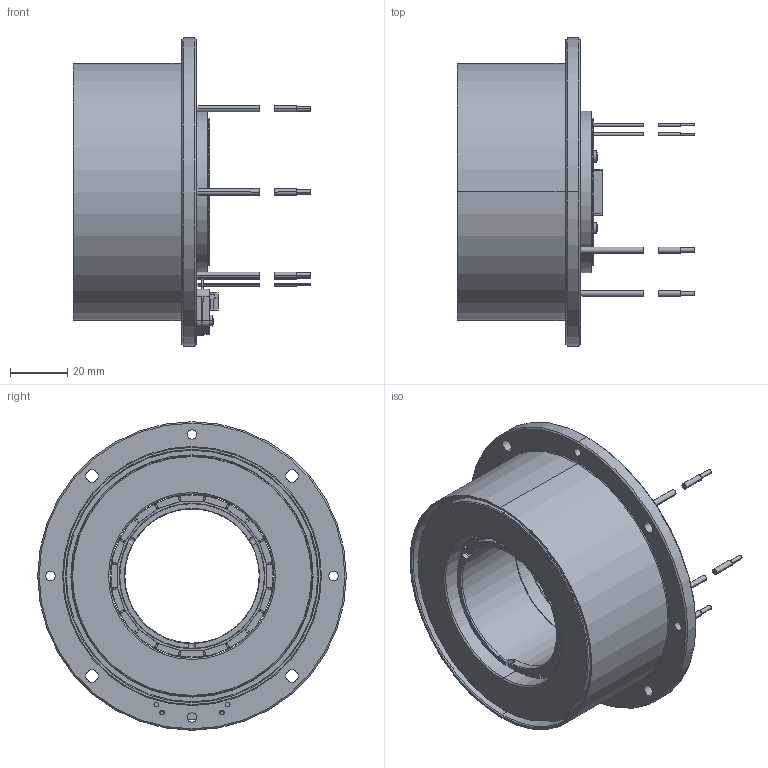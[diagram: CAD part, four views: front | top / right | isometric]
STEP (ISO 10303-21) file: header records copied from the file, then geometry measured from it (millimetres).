
FILE_DESCRIPTION((''),'2;1');
FILE_NAME('9687916_SW0001','2022-11-15T14:44:34',('MMAGVISI'),(''),'CREO PARAMETRIC BY PTC INC, 2020342','CREO PARAMETRIC BY PTC INC, 2020342','');
FILE_SCHEMA(('CONFIG_CONTROL_DESIGN','SHAPE_APPEARANCE_LAYERS_GROUPS'));
Length unit declared in the file: millimetre
Products named in the file (1): 9687916_SW0001
Bounding box: 83.05 x 108 x 108 mm (x, y, z)
Volume: 195253.8 mm3; surface area: 67039.5 mm2
Topology: 27 solids, 27 shells, 921 faces, 2545 edges, 1693 vertices
Faces by surface type: plane 508, cylinder 237, torus 120, cone 52, sphere 4
Entity records: 39035 total; most frequent: CARTESIAN_POINT 7814, ORIENTED_EDGE 5086, DIRECTION 4579, PRESENTATION_STYLE_ASSIGNMENT 2570, STYLED_ITEM 2570, CURVE_STYLE 2543, EDGE_CURVE 2543, VERTEX_POINT 1693
